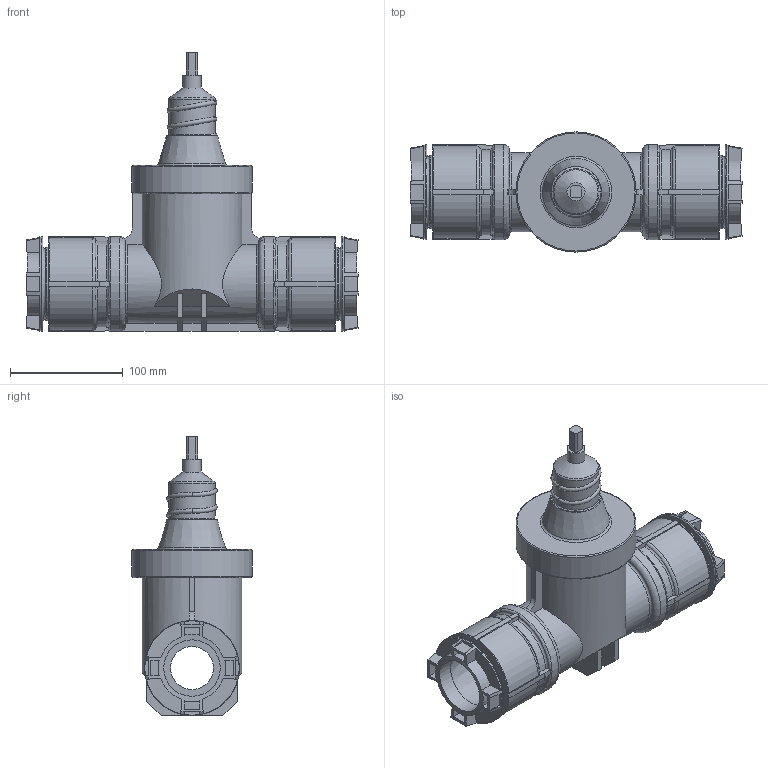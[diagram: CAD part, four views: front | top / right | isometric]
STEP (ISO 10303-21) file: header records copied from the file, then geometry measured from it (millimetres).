
FILE_DESCRIPTION( ( 'STEP AP203' ), '1' );
FILE_NAME( 'p:/temp/worker_203/temp/exporttempdir_3188_91_096cw/format_0/5003296 2631 DN1 1_2 (400).stp', '2021-01-13T08:25:42', ( 'License CC BY-ND 4.0' ), ( 'CADENAS' ), ' ', 'PARTsolutions', ' ' );
FILE_SCHEMA( ( 'CONFIG_CONTROL_DESIGN' ) );
Length unit declared in the file: millimetre
Products named in the file (1): _5003296 2631 DN1 1/2 (400)
Bounding box: 294 x 106.54 x 247 mm (x, y, z)
Volume: 1406937.3 mm3; surface area: 195786 mm2
Topology: 1 solids, 1 shells, 294 faces, 805 edges, 528 vertices
Faces by surface type: plane 173, cylinder 64, torus 49, cone 8
Full cylindrical faces by diameter (mm): 16 x1, 38.1 x1, 40.84 x2, 50 x4, 65 x2, 84 x6, 106.54 x1
Entity records: 10646 total; most frequent: CARTESIAN_POINT 3656, ORIENTED_EDGE 1494, DIRECTION 1332, EDGE_CURVE 747, VERTEX_POINT 512, AXIS2_PLACEMENT_3D 504, EDGE_LOOP 349, LINE 324
